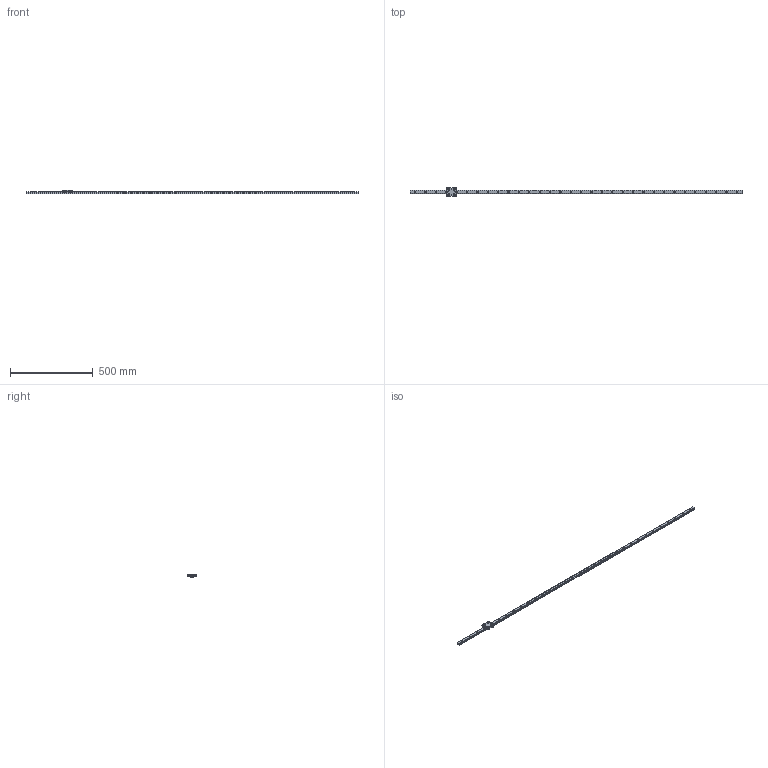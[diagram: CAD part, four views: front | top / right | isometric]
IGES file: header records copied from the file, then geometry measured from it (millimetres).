
Global section: file name: No Iges File Name specified; native system: AutoDesk Inventor R11.0; preprocessor: AutoDesk Inventor Iges Exporter R11.0; author: No Author specified; organization: No Organization specified; date: 20170718.164727; units: millimetre
Bounding box: 2000 x 52 x 20 mm (x, y, z)
Surface area: 153821.5 mm2 (no closed solid volume)
Topology: 0 solids, 0 shells, 361 faces, 2490 edges, 2490 vertices
Faces by surface type: bspline 361
